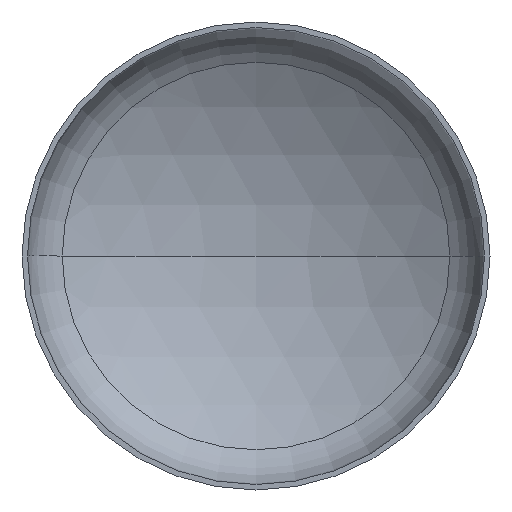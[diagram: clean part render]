
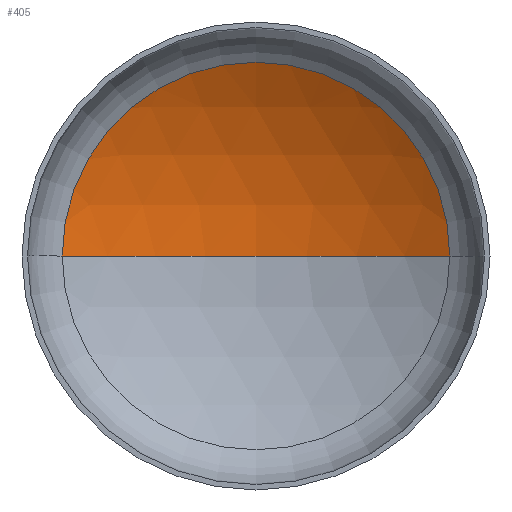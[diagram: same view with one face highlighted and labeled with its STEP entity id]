
A CAD part, front view. The second image highlights one B-rep face of the part: STEP entity #405.
In plain terms, the highlighted spherical face has radius 5200 mm.
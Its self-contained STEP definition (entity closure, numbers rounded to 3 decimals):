
#17 = VERTEX_POINT ( 'NONE', #349 ) ;
#42 = CARTESIAN_POINT ( 'NONE',  ( 0., 975.611, 0. ) ) ;
#50 = ORIENTED_EDGE ( 'NONE', *, *, #244, .T. ) ;
#51 = DIRECTION ( 'NONE',  ( 0., -1., 0. ) ) ;
#61 = ORIENTED_EDGE ( 'NONE', *, *, #187, .T. ) ;
#74 = DIRECTION ( 'NONE',  ( -1., 0., 0. ) ) ;
#82 = EDGE_LOOP ( 'NONE', ( #90, #61, #50 ) ) ;
#90 = ORIENTED_EDGE ( 'NONE', *, *, #101, .F. ) ;
#93 = DIRECTION ( 'NONE',  ( 0., 0., -1. ) ) ;
#96 = CARTESIAN_POINT ( 'NONE',  ( 0., -3473.567, 0. ) ) ;
#97 = VERTEX_POINT ( 'NONE', #299 ) ;
#99 = VERTEX_POINT ( 'NONE', #296 ) ;
#101 = EDGE_CURVE ( 'NONE', #97, #17, #144, .T. ) ;
#126 = DIRECTION ( 'NONE',  ( 1., 0., 0. ) ) ;
#128 = AXIS2_PLACEMENT_3D ( 'NONE', #96, #93, #74 ) ;
#144 = CIRCLE ( 'NONE', #336, 5200. ) ;
#145 = AXIS2_PLACEMENT_3D ( 'NONE', #356, #146, #332 ) ;
#146 = DIRECTION ( 'NONE',  ( 0., 0., -1. ) ) ;
#176 = CARTESIAN_POINT ( 'NONE',  ( 0., -3473.567, 0. ) ) ;
#187 = EDGE_CURVE ( 'NONE', #97, #99, #388, .T. ) ;
#189 = CIRCLE ( 'NONE', #259, 2691.619 ) ;
#205 = FACE_OUTER_BOUND ( 'NONE', #82, .T. ) ;
#244 = EDGE_CURVE ( 'NONE', #99, #17, #189, .T. ) ;
#259 = AXIS2_PLACEMENT_3D ( 'NONE', #42, #51, #126 ) ;
#296 = CARTESIAN_POINT ( 'NONE',  ( 2691.619, 975.611, 0. ) ) ;
#299 = CARTESIAN_POINT ( 'NONE',  ( 0., 1726.433, 0. ) ) ;
#310 = DIRECTION ( 'NONE',  ( 1., 0., 0. ) ) ;
#312 = DIRECTION ( 'NONE',  ( 0., 0., 1. ) ) ;
#332 = DIRECTION ( 'NONE',  ( -1., 0., 0. ) ) ;
#336 = AXIS2_PLACEMENT_3D ( 'NONE', #176, #312, #310 ) ;
#349 = CARTESIAN_POINT ( 'NONE',  ( -2691.619, 975.611, 0. ) ) ;
#356 = CARTESIAN_POINT ( 'NONE',  ( 0., -3473.567, 0. ) ) ;
#388 = CIRCLE ( 'NONE', #128, 5200. ) ;
#400 = SPHERICAL_SURFACE ( 'NONE', #145, 5200. ) ;
#405 = ADVANCED_FACE ( 'NONE', ( #205 ), #400, .F. ) ;
